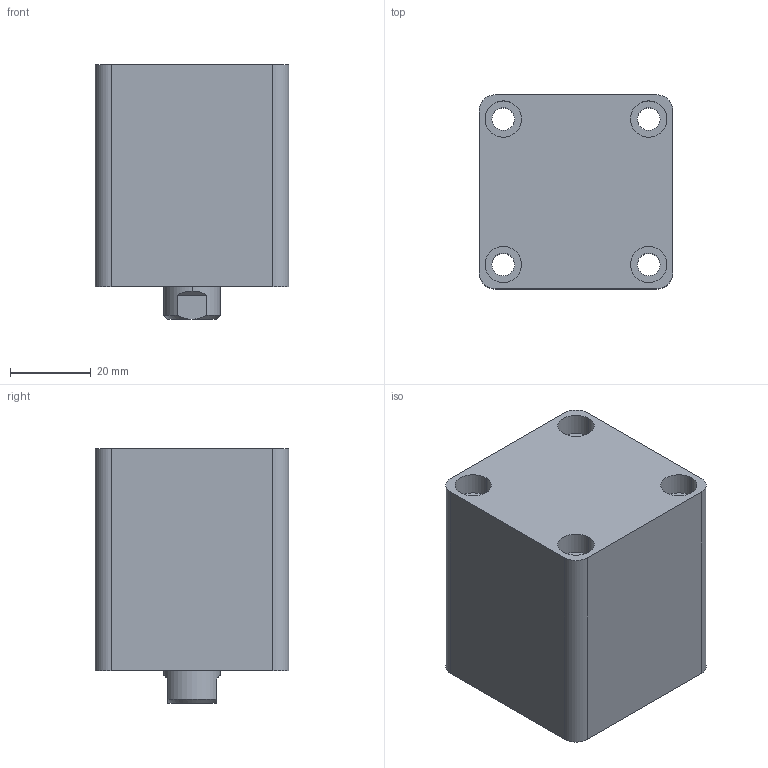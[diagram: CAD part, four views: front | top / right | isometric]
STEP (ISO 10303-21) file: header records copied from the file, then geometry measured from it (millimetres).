
FILE_DESCRIPTION (( 'STEP AP203' ), '1' );
FILE_NAME ('HTB-SD25-10N.STEP', '2019-10-07T05:56:59', ( '微软用户' ), ( '微软中国' ), 'SwSTEP 2.0', 'SolidWorks 2012', '' );
FILE_SCHEMA (( 'CONFIG_CONTROL_DESIGN' ));
Length unit declared in the file: millimetre
Products named in the file (3): HTB-SD25-10掛极; HTB-SD25-10N活塞杆; HTB-SD25-10N
Assembly tree (2 placements, depth 2):
  HTB-SD25-10N
    HTB-SD25-10掛极
    HTB-SD25-10N活塞杆
Bounding box: 48 x 48 x 63 mm (x, y, z)
Volume: 114712.2 mm3; surface area: 27229 mm2
Topology: 2 solids, 2 shells, 83 faces, 182 edges, 117 vertices
Faces by surface type: cylinder 42, plane 27, cone 8, torus 6
Entity records: 2653 total; most frequent: DIRECTION 454, CARTESIAN_POINT 429, ORIENTED_EDGE 360, AXIS2_PLACEMENT_3D 194, EDGE_CURVE 180, VERTEX_POINT 117, EDGE_LOOP 107, CIRCLE 106
